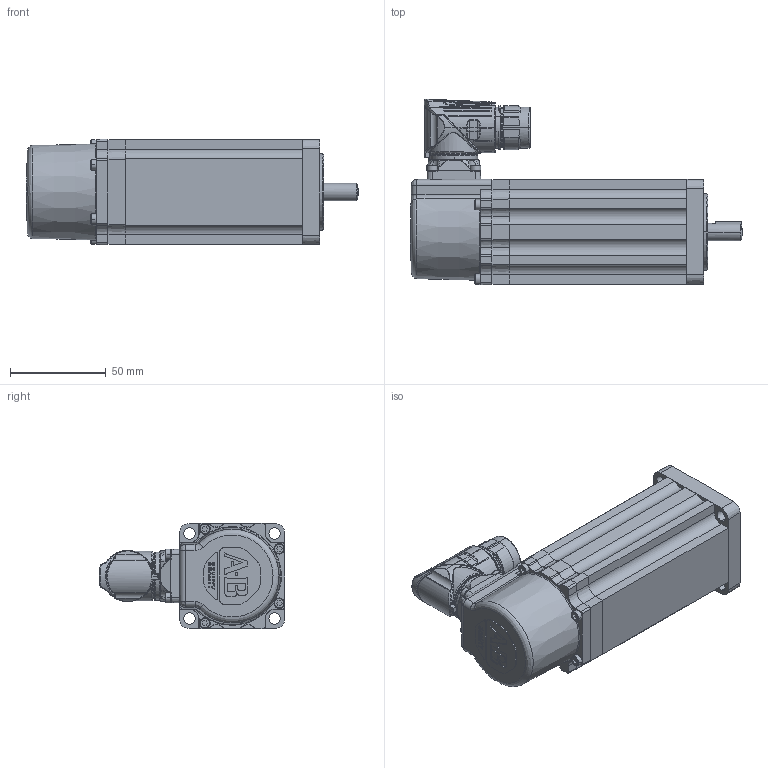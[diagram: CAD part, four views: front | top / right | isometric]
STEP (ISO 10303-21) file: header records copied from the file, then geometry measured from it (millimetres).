
FILE_DESCRIPTION (( 'STEP AP214' ), '1' );
FILE_NAME ('Rockwell Automation-$PARTNUMBER.STEP', '2014-03-20T18:41:49', ( 'Windows User' ), ( '' ), 'SwSTEP 2.0', 'SolidWorks 2014', '' );
FILE_SCHEMA (( 'AUTOMOTIVE_DESIGN' ));
Length unit declared in the file: inch
Products named in the file (23): Rockwell Automation-$PARTNUMBER_Rockwell Automation-VPL-x0631x-xJx4xx_PRT0011; Rockwell Automation-$PARTNUMBER_Rockwell Automation-VPL-x0631x-xJx4xx_PRT0010; Rockwell Automation-$PARTNUMBER_Rockwell Automation-VPL-x0631x-xJx4xx_M23_Connector; Rockwell Automation-$PARTNUMBER_Rockwell Automation-VPL-x0631x-xJx4xx_10000014326-M23_ASM; Rockwell Automation-$PARTNUMBER_Rockwell Automation-VPL-x0631x-xJx4xx_10000014326-1; Rockwell Automation-$PARTNUMBER_Rockwell Automation-VPL-x0631x-xJx4xx_10000014325-1; Rockwell Automation-$PARTNUMBER_Rockwell Automation-VPL-x0631x-xJx4xx_10000540833; Rockwell Automation-$PARTNUMBER_Rockwell Automation-VPL-x0631x-xJx4xx_PRT0004; Rockwell Automation-$PARTNUMBER_Rockwell Automation-VPL-x0631x-xJx4xx_PRT0003; Rockwell Automation-$PARTNUMBER_Rockwell Automation-VPL-x0631x-xJx4xx_vpl-063_asm_0631_k_break; Rockwell Automation-$PARTNUMBER_Rockwell Automation-VPL-x0631x-xJx4xx_PRT0002; Rockwell Automation-$PARTNUMBER_Rockwell Automation-VPL-x0631x-xJx4xx_PRT0017; Rockwell Automation-$PARTNUMBER_Rockwell Automation-VPL-x0631x-xJx4xx_Part21_0631-K-BREAK; Rockwell Automation-$PARTNUMBER_Rockwell Automation-VPL-x0631x-xJx4xx_PRT0016_Shaft_1_4; Rockwell Automation-$PARTNUMBER_Rockwell Automation-VPL-x0631x-xJx4xx_ASM0006_ASM; Rockwell Automation-$PARTNUMBER; Rockwell Automation-$PARTNUMBER_Rockwell Automation-VPL-x0631x-xJx4xx_ASM0007_ASM; Rockwell Automation-$PARTNUMBER_Rockwell Automation-VPL-x0631x-xJx4xx_ASM0009_ASM; Rockwell Automation-$PARTNUMBER_Rockwell Automation-VPL-x0631x-xJx4xx_PRT0019; Rockwell Automation-$PARTNUMBER_Rockwell Automation-VPL-x0631x-xJx4xx_PRT0018; Rockwell Automation-$PARTNUMBER_Rockwell Automation-VPL-x0631x-xJx4xx_PRT0015; Rockwell Automation-$PARTNUMBER_Rockwell Automation-VPL-x0631x-xJx4xx_ASM0002_ASM; Rockwell Automation-$PARTNUMBER_Rockwell Automation-VPL-x0631x-xJx4xx_ASM0005_ASM
Assembly tree (33 placements, depth 6):
  Rockwell Automation-$PARTNUMBER
    Rockwell Automation-$PARTNUMBER_Rockwell Automation-VPL-x0631x-xJx4xx_vpl-063_asm_0631_k_break
      Rockwell Automation-$PARTNUMBER_Rockwell Automation-VPL-x0631x-xJx4xx_Part21_0631-K-BREAK
      Rockwell Automation-$PARTNUMBER_Rockwell Automation-VPL-x0631x-xJx4xx_ASM0002_ASM
        Rockwell Automation-$PARTNUMBER_Rockwell Automation-VPL-x0631x-xJx4xx_PRT0002  x4
        Rockwell Automation-$PARTNUMBER_Rockwell Automation-VPL-x0631x-xJx4xx_PRT0003  x4
        Rockwell Automation-$PARTNUMBER_Rockwell Automation-VPL-x0631x-xJx4xx_PRT0004  x2
        Rockwell Automation-$PARTNUMBER_Rockwell Automation-VPL-x0631x-xJx4xx_M23_Connector
          Rockwell Automation-$PARTNUMBER_Rockwell Automation-VPL-x0631x-xJx4xx_10000540833
          Rockwell Automation-$PARTNUMBER_Rockwell Automation-VPL-x0631x-xJx4xx_10000014325-1
          Rockwell Automation-$PARTNUMBER_Rockwell Automation-VPL-x0631x-xJx4xx_10000014326-M23_ASM
            Rockwell Automation-$PARTNUMBER_Rockwell Automation-VPL-x0631x-xJx4xx_10000014326-1
        Rockwell Automation-$PARTNUMBER_Rockwell Automation-VPL-x0631x-xJx4xx_ASM0005_ASM
          Rockwell Automation-$PARTNUMBER_Rockwell Automation-VPL-x0631x-xJx4xx_PRT0010
          Rockwell Automation-$PARTNUMBER_Rockwell Automation-VPL-x0631x-xJx4xx_PRT0011  x2
      Rockwell Automation-$PARTNUMBER_Rockwell Automation-VPL-x0631x-xJx4xx_ASM0006_ASM
        Rockwell Automation-$PARTNUMBER_Rockwell Automation-VPL-x0631x-xJx4xx_ASM0007_ASM
          Rockwell Automation-$PARTNUMBER_Rockwell Automation-VPL-x0631x-xJx4xx_PRT0015  x4
          Rockwell Automation-$PARTNUMBER_Rockwell Automation-VPL-x0631x-xJx4xx_PRT0018
          Rockwell Automation-$PARTNUMBER_Rockwell Automation-VPL-x0631x-xJx4xx_ASM0009_ASM
            Rockwell Automation-$PARTNUMBER_Rockwell Automation-VPL-x0631x-xJx4xx_PRT0019
      Rockwell Automation-$PARTNUMBER_Rockwell Automation-VPL-x0631x-xJx4xx_PRT0016_Shaft_1_4
      Rockwell Automation-$PARTNUMBER_Rockwell Automation-VPL-x0631x-xJx4xx_PRT0017
Bounding box: 173.7 x 97.23 x 55.31 mm (x, y, z)
Volume: 130893.9 mm3; surface area: 127349.7 mm2
Topology: 18 solids, 40 shells, 3077 faces, 8524 edges, 5533 vertices
Faces by surface type: cylinder 994, plane 909, bspline 772, cone 394, torus 8
Entity records: 157654 total; most frequent: CARTESIAN_POINT 86154, ORIENTED_EDGE 14215, DIRECTION 8208, EDGE_CURVE 7127, VERTEX_POINT 4687, B_SPLINE_CURVE_WITH_KNOTS 3708, AXIS2_PLACEMENT_3D 3078, EDGE_LOOP 2701
